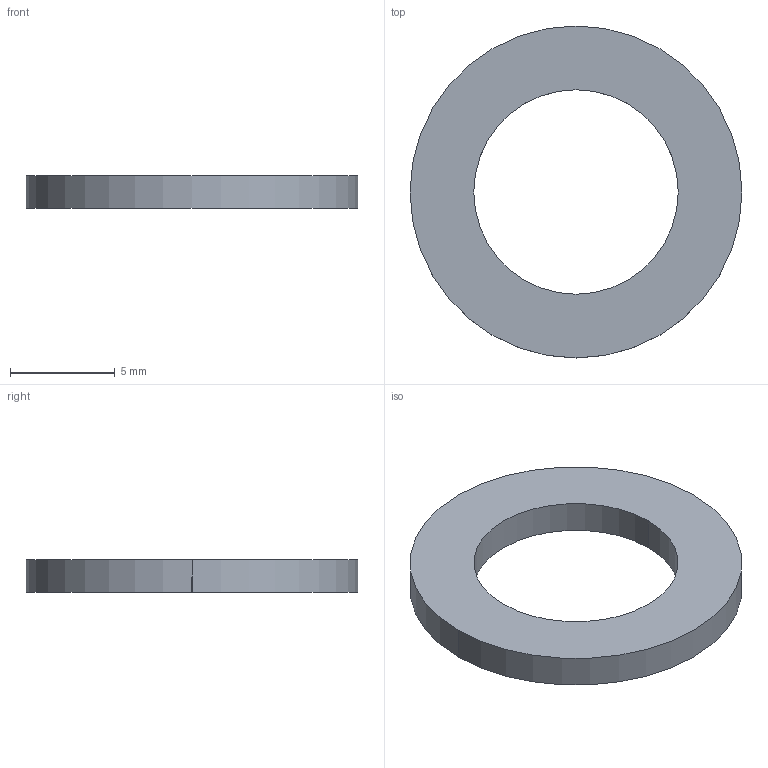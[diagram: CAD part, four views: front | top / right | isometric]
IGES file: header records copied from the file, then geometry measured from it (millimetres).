
Global section: file name: C:\Documents and Settings\Administrator\Desktop\Transfer Temp\tbb-6-10.igs; native system: AutoDesk Inventor R2.0 ; preprocessor: AutoDesk Inventor Iges Exporter R2.0; author: No Author specified; organization: No Organization specified; date: 20011230.161821; units: inch
Bounding box: 15.88 x 15.88 x 1.56 mm (x, y, z)
Surface area: 371.5 mm2 (no closed solid volume)
Topology: 0 solids, 0 shells, 6 faces, 24 edges, 24 vertices
Faces by surface type: revolution 4, bspline 2
